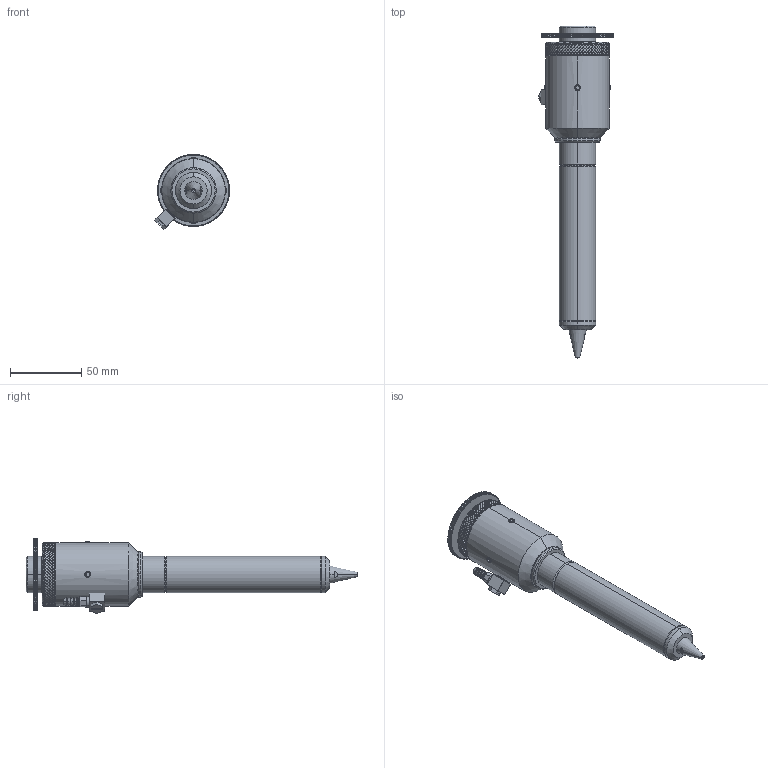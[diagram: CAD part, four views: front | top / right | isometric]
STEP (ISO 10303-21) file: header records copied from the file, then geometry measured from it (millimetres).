
FILE_DESCRIPTION (( 'STEP AP214' ), '1' );
FILE_NAME ('PHA-19-XX-191-LB.STEP', '2016-05-25T14:05:14', ( '' ), ( '' ), 'SwSTEP 2.0', 'SolidWorks 2016', '' );
FILE_SCHEMA (( 'AUTOMOTIVE_DESIGN' ));
Length unit declared in the file: inch
Products named in the file (1): PHA-19-XX-191-LB
Bounding box: 52.43 x 232.25 x 52.45 mm (x, y, z)
Volume: 174194.3 mm3; surface area: 31111.6 mm2
Topology: 2 solids, 2 shells, 5610 faces, 14129 edges, 8529 vertices
Faces by surface type: plane 4525, cylinder 989, cone 42, torus 34, sphere 20
Entity records: 235200 total; most frequent: CARTESIAN_POINT 40394, ORIENTED_EDGE 28218, DIRECTION 21966, EDGE_CURVE 14109, VECTOR 9652, LINE 9652, VERTEX_POINT 8529, AXIS2_PLACEMENT_3D 6157
